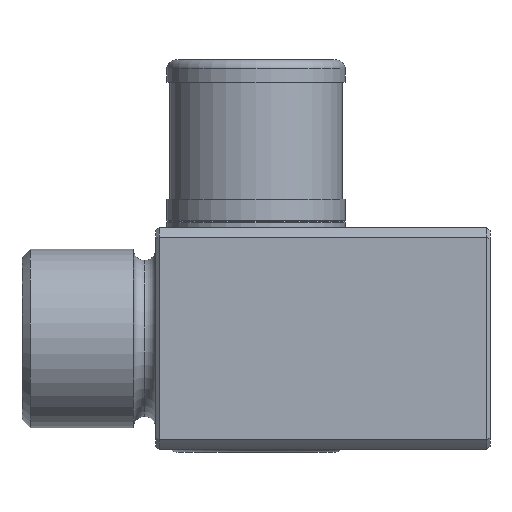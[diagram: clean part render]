
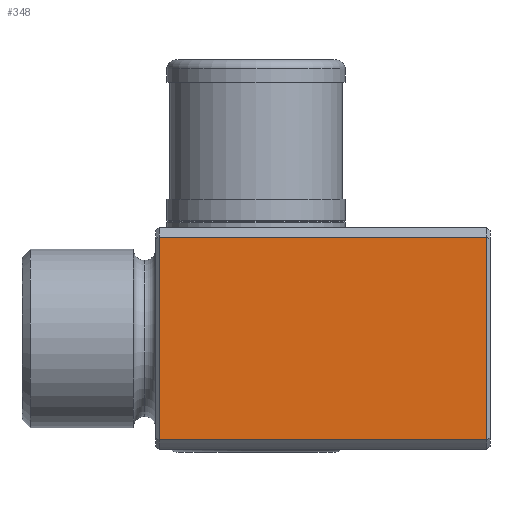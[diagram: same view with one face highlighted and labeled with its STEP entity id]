
A CAD part, left-side view. The second image highlights one B-rep face of the part: STEP entity #348.
In plain terms, the highlighted planar face has unit normal (-1, 0, 0) as drawn and (1, 0, 0) by its records, which use the part's own axes.
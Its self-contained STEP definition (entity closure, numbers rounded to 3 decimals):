
#348=ADVANCED_FACE('',(#573),#574,.F.);
#573=FACE_OUTER_BOUND('',#822,.T.);
#574=PLANE('',#823);
#822=EDGE_LOOP('',(#1213,#1214,#1215,#1216));
#823=AXIS2_PLACEMENT_3D('',#1217,#1218,#1219);
#1213=ORIENTED_EDGE('',*,*,#1480,.F.);
#1214=ORIENTED_EDGE('',*,*,#1439,.T.);
#1215=ORIENTED_EDGE('',*,*,#1482,.F.);
#1216=ORIENTED_EDGE('',*,*,#1446,.T.);
#1217=CARTESIAN_POINT('',(10.0,0.0,21.0));
#1218=DIRECTION('',(-1.0,0.,0.0));
#1219=DIRECTION('',(0.,1.0,0.0));
#1439=EDGE_CURVE('',#1636,#1630,#1640,.T.);
#1446=EDGE_CURVE('',#1649,#1647,#1650,.T.);
#1480=EDGE_CURVE('',#1636,#1647,#1691,.F.);
#1482=EDGE_CURVE('',#1649,#1630,#1693,.T.);
#1630=VERTEX_POINT('',#2022);
#1636=VERTEX_POINT('',#2031);
#1640=LINE('',#2039,#2040);
#1647=VERTEX_POINT('',#2050);
#1649=VERTEX_POINT('',#2055);
#1650=LINE('',#2056,#2057);
#1691=LINE('',#2124,#2125);
#1693=LINE('',#2127,#2128);
#2022=CARTESIAN_POINT('',(10.0,-9.069,8.7));
#2031=CARTESIAN_POINT('',(10.0,9.069,8.7));
#2039=CARTESIAN_POINT('',(10.0,-9.069,8.7));
#2040=VECTOR('',#2410,1.0);
#2050=CARTESIAN_POINT('',(10.0,9.069,-20.7));
#2055=CARTESIAN_POINT('',(10.0,-9.069,-20.7));
#2056=CARTESIAN_POINT('',(10.0,9.069,-20.7));
#2057=VECTOR('',#2417,1.0);
#2124=CARTESIAN_POINT('',(10.0,9.069,-21.0));
#2125=VECTOR('',#2444,1.0);
#2127=CARTESIAN_POINT('',(10.0,-9.069,-21.0));
#2128=VECTOR('',#2445,1.0);
#2410=DIRECTION('',(0.,-1.0,0.0));
#2417=DIRECTION('',(0.,1.0,0.0));
#2444=DIRECTION('',(0.0,0.0,1.0));
#2445=DIRECTION('',(0.0,0.0,1.0));
